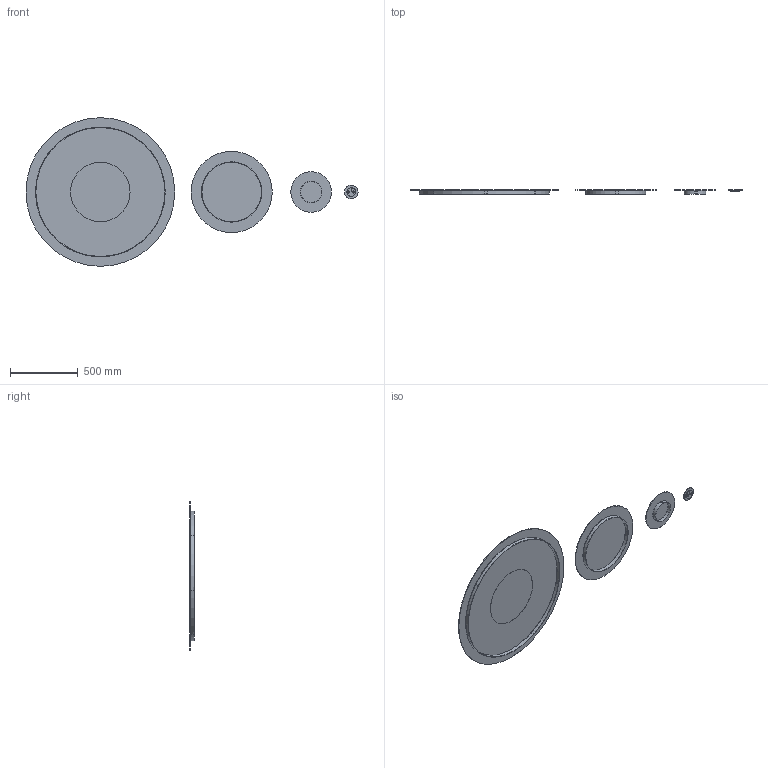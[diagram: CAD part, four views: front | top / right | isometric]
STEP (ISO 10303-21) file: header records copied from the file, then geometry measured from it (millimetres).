
FILE_DESCRIPTION(/* description */ (''),/* implementation_level */ '2;1');
FILE_NAME(/* name */ '/Users/EtreModerne/Desktop/EDEN DESIGN - °eclipse (4 formats).step',/* time_stamp */ '2021-03-23T12:27:14+01:00',/* author */ (''),/* organization */ (''),/* preprocessor_version */ 'ST-DEVELOPER v18.1',/* originating_system */ 'Autodesk Translation Framework v9.10.0.1330',/* authorisation */ '');
FILE_SCHEMA (('AUTOMOTIVE_DESIGN { 1 0 10303 214 3 1 1 }'));
Length unit declared in the file: millimetre
Products named in the file (12): spiegel; SPIEGEL 100; SPIEGEL 300; SPIEGEL 1100 mm; SPIEGEL 600; bodem 110; SCHIJF 10; ring 110; ring 60; ring 30; bodem 30; bodem 60
Assembly tree (11 placements, depth 2):
  spiegel
    SPIEGEL 100
    SPIEGEL 300
    SPIEGEL 1100 mm
    SPIEGEL 600
    bodem 110
    SCHIJF 10
    ring 110
    ring 60
    ring 30
    bodem 30
    bodem 60
Bounding box: 2455.96 x 31.5 x 1100 mm (x, y, z)
Volume: 7860257.3 mm3; surface area: 4442654 mm2
Topology: 11 solids, 11 shells, 78 faces, 180 edges, 120 vertices
Faces by surface type: cylinder 54, plane 24
Full cylindrical faces by diameter (mm): 2.529 x34, 15.1 x2, 100 x1, 156 x2, 160 x1, 300 x1, 440 x3, 446 x1, 600 x1, 954 x2, 960 x1, 1100 x1
Entity records: 4856 total; most frequent: CARTESIAN_POINT 2654, ORIENTED_EDGE 360, DIRECTION 348, EDGE_CURVE 180, EDGE_LOOP 154, AXIS2_PLACEMENT_3D 142, VERTEX_POINT 120, FACE_OUTER_BOUND 78
